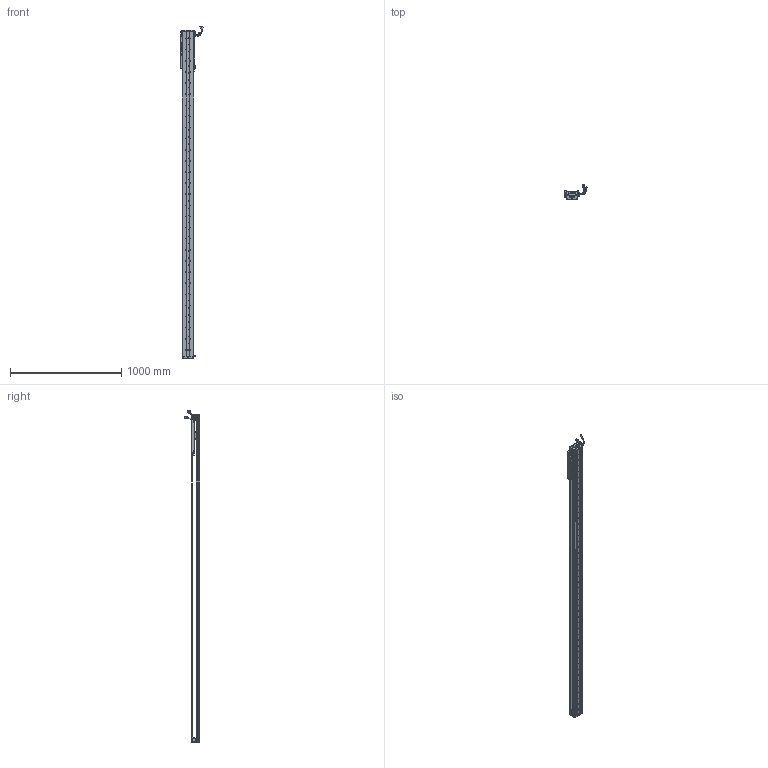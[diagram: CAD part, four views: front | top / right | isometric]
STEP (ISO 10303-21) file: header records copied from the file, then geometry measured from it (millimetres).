
FILE_DESCRIPTION (( 'STEP AP203' ), '1' );
FILE_NAME ('Z4-RY100D-1-L500-B-K.SLDASM_2550.step', '2021-05-17T03:04:40', ( '盈信电脑' ), ( '东莞市道滘镇水果街19号' ), 'SwSTEP 2.0', 'SolidWorks 2016', '' );
FILE_SCHEMA (( 'CONFIG_CONTROL_DESIGN' ));
Length unit declared in the file: millimetre
Products named in the file (36): Z4-RY100D-1-L500-B-K.SLDASM_2550; 100-Z-臏賑輸盄裔(21遴); PSLH080_PSLF2; SEAL; SHIELDPLATE; Z-100詩湍傷裔啣; Z-RY100D詩湍奻揤裔; SCALE-Part-2; SEAL-Part-1; SCREW-M1.7; HARNESS-Part-2; SCALE-Part-1; Z4-RY100D-500-倰第菁釱_2550; 140蚥薯蝶輸; SCREW-M1.7-1; 080黍杅芛假蚾釱21遴; Z4-RY100铝滑块（21款）; Z4-RY100-L500詩湍90mm遵_2550; 榋妏寠巭燃_暯_M2_2; 140雄赽晤鎢ん堤盄; SCALE; LABEL; SCREW-M1.6-1; HARNESS; Z-RY100D詩湍狟揤裔; SCREW-M1.6-2; LABEL-Part-1; COVER; COVER-Part-1; SCREW-M1.6-3; SCREW-M1.6; 覜茼ん672; PBU_SHEET; Z-RY100D覜茼んえ; HOLDER0; HARNESS-Part-1
Assembly tree (43 placements, depth 4):
  Z4-RY100D-1-L500-B-K.SLDASM_2550
    Z4-RY100D-500-倰第菁釱_2550
    Z4-RY100铝滑块（21款）
    PSLH080_PSLF2
      SCALE
        SCALE-Part-1
        SCALE-Part-2
      HARNESS
        HARNESS-Part-1
        HARNESS-Part-2
      LABEL
        LABEL-Part-1
      COVER
        COVER-Part-1
      SEAL
        SEAL-Part-1
      榋妏寠巭燃_暯_M2_2
      SHIELDPLATE
      SCREW-M1.7
      SCREW-M1.7-1
      PBU_SHEET
      SCREW-M1.6
      SCREW-M1.6-1
      SCREW-M1.6-2
      SCREW-M1.6-3
      HOLDER0
    080黍杅芛假蚾釱21遴
    Z-100詩湍傷裔啣  x2
    140蚥薯蝶輸  x2
    覜茼ん672  x3
    Z-RY100D覜茼んえ  x3
    100-Z-臏賑輸盄裔(21遴)
    140雄赽晤鎢ん堤盄
    Z4-RY100-L500詩湍90mm遵_2550
    Z-RY100D詩湍狟揤裔  x2
    Z-RY100D詩湍奻揤裔  x2
Bounding box: 205.79 x 136.11 x 2985.43 mm (x, y, z)
Volume: 5503423.3 mm3; surface area: 2155358.1 mm2
Topology: 38 solids, 38 shells, 3090 faces, 8479 edges, 5420 vertices
Faces by surface type: cylinder 1546, plane 1196, cone 226, torus 69, bspline 53
Entity records: 90287 total; most frequent: CARTESIAN_POINT 18882, DIRECTION 14603, ORIENTED_EDGE 13838, EDGE_CURVE 6919, AXIS2_PLACEMENT_3D 5509, VERTEX_POINT 4488, VECTOR 3585, LINE 3585
